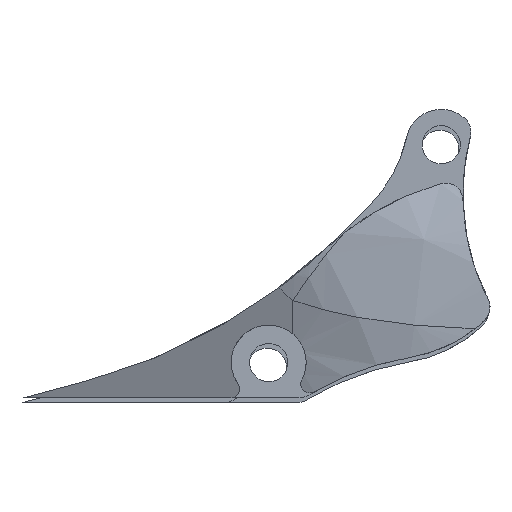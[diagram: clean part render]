
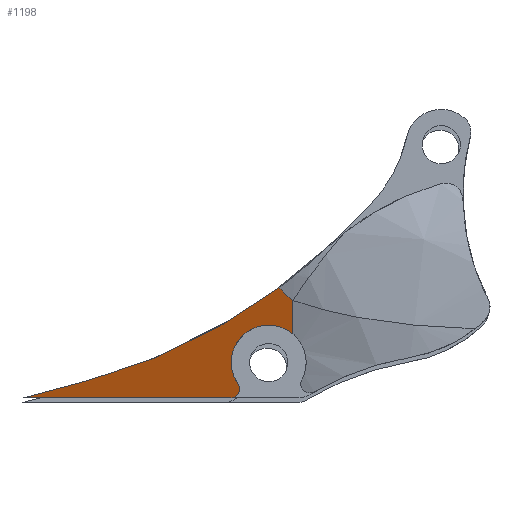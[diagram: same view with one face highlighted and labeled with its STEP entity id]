
A CAD part, left-side view. The second image highlights one B-rep face of the part: STEP entity #1198.
In plain terms, the highlighted planar face has unit normal (-0.881, 0.472, 0) as drawn and (0, 0.472, -0.882) by its records, which use the part's own axes.
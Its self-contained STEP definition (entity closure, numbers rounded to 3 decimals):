
#39=ELLIPSE('',#1343,0.9,0.794);
#40=ELLIPSE('',#1350,3.818,3.366);
#41=ELLIPSE('',#1353,43.206,20.861);
#42=ELLIPSE('',#1359,57.628,50.8);
#94=PLANE('',#1358);
#148=FACE_OUTER_BOUND('',#220,.T.);
#220=EDGE_LOOP('',(#1033,#1034,#1035,#1036,#1037,#1038,#1039));
#287=LINE('',#2271,#363);
#296=LINE('',#2373,#372);
#297=LINE('',#2377,#373);
#363=VECTOR('',#1650,10.);
#372=VECTOR('',#1683,10.);
#373=VECTOR('',#1688,10.);
#531=VERTEX_POINT('',#2182);
#550=VERTEX_POINT('',#2261);
#551=VERTEX_POINT('',#2262);
#554=VERTEX_POINT('',#2270);
#562=VERTEX_POINT('',#2309);
#564=VERTEX_POINT('',#2343);
#567=VERTEX_POINT('',#2375);
#706=EDGE_CURVE('',#550,#551,#39,.T.);
#710=EDGE_CURVE('',#554,#550,#287,.T.);
#722=EDGE_CURVE('',#562,#551,#40,.T.);
#726=EDGE_CURVE('',#531,#564,#41,.T.);
#731=EDGE_CURVE('',#531,#562,#296,.T.);
#732=EDGE_CURVE('',#567,#564,#42,.F.);
#733=EDGE_CURVE('',#567,#554,#297,.T.);
#1033=ORIENTED_EDGE('',*,*,#706,.T.);
#1034=ORIENTED_EDGE('',*,*,#722,.F.);
#1035=ORIENTED_EDGE('',*,*,#731,.F.);
#1036=ORIENTED_EDGE('',*,*,#726,.T.);
#1037=ORIENTED_EDGE('',*,*,#732,.F.);
#1038=ORIENTED_EDGE('',*,*,#733,.T.);
#1039=ORIENTED_EDGE('',*,*,#710,.T.);
#1198=ADVANCED_FACE('',(#148),#94,.T.);
#1343=AXIS2_PLACEMENT_3D('',#2263,#1642,#1643);
#1350=AXIS2_PLACEMENT_3D('',#2322,#1666,#1667);
#1353=AXIS2_PLACEMENT_3D('',#2350,#1673,#1674);
#1358=AXIS2_PLACEMENT_3D('',#2374,#1684,#1685);
#1359=AXIS2_PLACEMENT_3D('',#2376,#1686,#1687);
#1642=DIRECTION('center_axis',(0.,0.472,
-0.882));
#1643=DIRECTION('ref_axis',(0.,-0.882,-0.472));
#1650=DIRECTION('',(0.,-0.882,-0.472));
#1666=DIRECTION('center_axis',(0.,0.472,
-0.882));
#1667=DIRECTION('ref_axis',(0.,-0.882,-0.472));
#1673=DIRECTION('center_axis',(0.,-0.472,
0.882));
#1674=DIRECTION('ref_axis',(0.027,-0.881,-0.472));
#1683=DIRECTION('',(1.,0.,0.));
#1684=DIRECTION('center_axis',(0.,0.472,
-0.882));
#1685=DIRECTION('ref_axis',(0.,0.882,0.472));
#1686=DIRECTION('center_axis',(0.,-0.472,
0.882));
#1687=DIRECTION('ref_axis',(0.,-0.882,-0.472));
#1688=DIRECTION('',(0.23,0.858,0.46));
#2182=CARTESIAN_POINT('',(-45.607,4.595,49.093));
#2261=CARTESIAN_POINT('',(-36.854,10.167,52.078));
#2262=CARTESIAN_POINT('',(-38.102,9.517,51.729));
#2263=CARTESIAN_POINT('Origin',(-37.648,10.167,52.078));
#2270=CARTESIAN_POINT('',(-36.854,28.77,62.042));
#2271=CARTESIAN_POINT('',(-36.854,7.403,50.597));
#2309=CARTESIAN_POINT('',(-42.608,4.595,49.093));
#2322=CARTESIAN_POINT('Origin',(-40.029,6.757,50.251));
#2343=CARTESIAN_POINT('',(-46.738,5.841,49.76));
#2350=CARTESIAN_POINT('Origin',(-56.385,-27.133,32.099));
#2373=CARTESIAN_POINT('',(-36.854,4.595,49.093));
#2374=CARTESIAN_POINT('Origin',(-36.854,4.595,49.093));
#2375=CARTESIAN_POINT('',(-38.378,23.08,58.994));
#2376=CARTESIAN_POINT('Origin',(-87.448,36.228,66.036));
#2377=CARTESIAN_POINT('',(-39.838,17.634,56.077));
